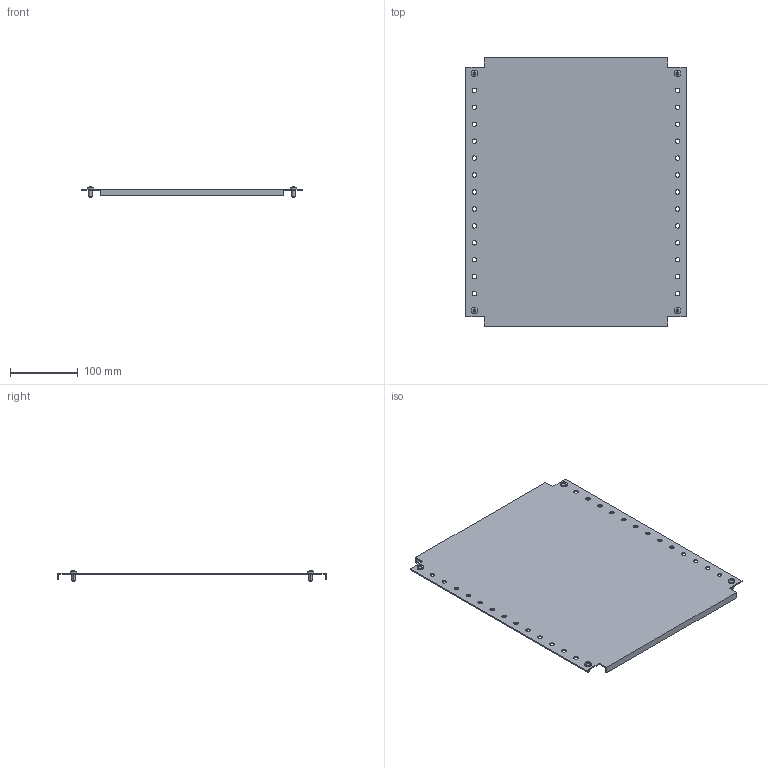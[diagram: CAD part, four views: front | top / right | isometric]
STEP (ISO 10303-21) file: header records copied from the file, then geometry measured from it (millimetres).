
FILE_DESCRIPTION (( 'STEP AP203' ), '1' );
FILE_NAME ('R6MPP04400.STEP', '2025-05-16T08:12:43', ( '' ), ( '' ), 'SwSTEP 2.0', 'SolidWorks 2022', '' );
FILE_SCHEMA (( 'CONFIG_CONTROL_DESIGN' ));
Length unit declared in the file: millimetre
Products named in the file (3): M5x12 DIN 7500 C Torx Zinc_stright; R6MPP04400; RB.3313.00.00.0 simple_-10
Assembly tree (5 placements, depth 2):
  R6MPP04400
    RB.3313.00.00.0 simple_-10
    M5x12 DIN 7500 C Torx Zinc_stright  x4
Bounding box: 325 x 398 x 15.56 mm (x, y, z)
Volume: 237800.2 mm3; surface area: 267822.7 mm2
Topology: 5 solids, 5 shells, 182 faces, 452 edges, 276 vertices
Faces by surface type: cylinder 76, plane 58, cone 16, torus 16, bspline 8, sphere 8
Entity records: 4239 total; most frequent: CARTESIAN_POINT 825, DIRECTION 670, ORIENTED_EDGE 600, EDGE_CURVE 300, AXIS2_PLACEMENT_3D 264, VERTEX_POINT 195, EDGE_LOOP 171, CIRCLE 148
